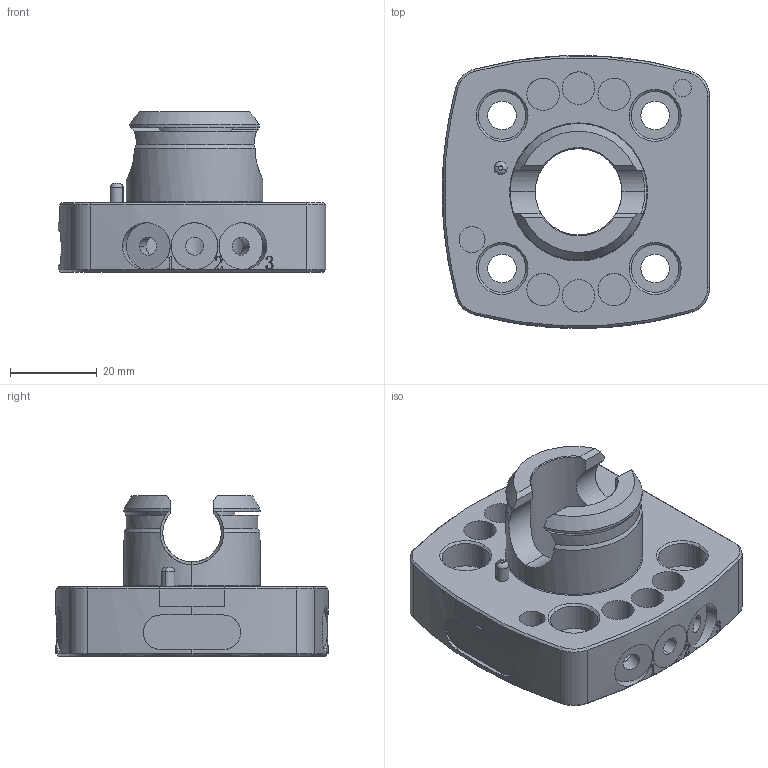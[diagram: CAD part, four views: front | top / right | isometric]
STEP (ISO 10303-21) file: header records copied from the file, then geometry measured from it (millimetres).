
FILE_DESCRIPTION (( 'STEP AP203' ), '1' );
FILE_NAME ('QC-G11.STEP', '2025-01-06T12:00:22', ( 'Windows User' ), ( 'P R C' ), 'SwSTEP 2.0', 'SolidWorks 2018', '' );
FILE_SCHEMA (( 'CONFIG_CONTROL_DESIGN' ));
Length unit declared in the file: millimetre
Products named in the file (1): QC-G11
Bounding box: 61.8 x 63 x 37 mm (x, y, z)
Surface area: 18212.3 mm2 (no closed solid volume)
Topology: 0 solids, 1 shells, 296 faces, 763 edges, 491 vertices
Faces by surface type: cylinder 101, plane 77, bspline 76, cone 38, torus 4
Entity records: 20174 total; most frequent: CARTESIAN_POINT 13532, ORIENTED_EDGE 1505, DIRECTION 1113, EDGE_CURVE 755, VERTEX_POINT 491, AXIS2_PLACEMENT_3D 453, EDGE_LOOP 349, B_SPLINE_CURVE_WITH_KNOTS 308
